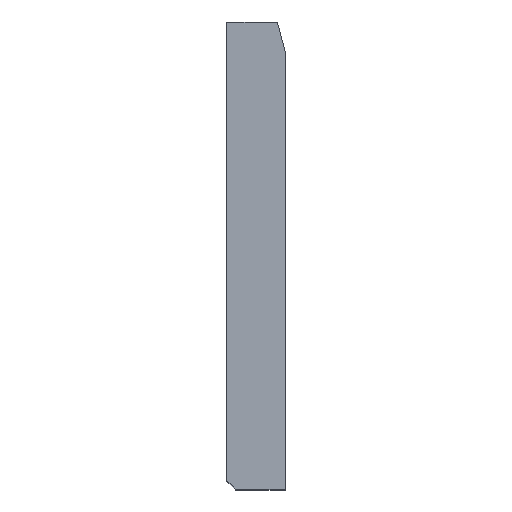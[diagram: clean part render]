
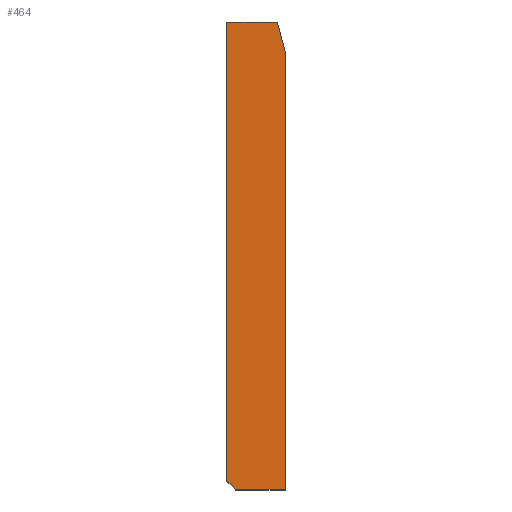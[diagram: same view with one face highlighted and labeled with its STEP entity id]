
A CAD part, top view. The second image highlights one B-rep face of the part: STEP entity #464.
In plain terms, the highlighted planar face has unit normal (0, 0, 1).
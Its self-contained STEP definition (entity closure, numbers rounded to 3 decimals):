
#70=CARTESIAN_POINT('Vertex',(0.,3.,80.)) ;
#73=CARTESIAN_POINT('Line Origine',(0.,81.5,80.)) ;
#77=CARTESIAN_POINT('Vertex',(0.,160.,80.)) ;
#402=CARTESIAN_POINT('Vertex',(3.,0.,80.)) ;
#405=CARTESIAN_POINT('Line Origine',(1.5,1.5,80.)) ;
#417=CARTESIAN_POINT('Axis2P3D Location',(15.,149.342,80.)) ;
#422=CARTESIAN_POINT('Line Origine',(11.5,0.,80.)) ;
#426=CARTESIAN_POINT('Vertex',(20.,0.,80.)) ;
#429=CARTESIAN_POINT('Line Origine',(20.,74.671,80.)) ;
#433=CARTESIAN_POINT('Vertex',(20.,149.342,80.)) ;
#436=CARTESIAN_POINT('Axis2P3D Location',(15.,149.342,80.)) ;
#440=CARTESIAN_POINT('Vertex',(19.83,150.636,80.)) ;
#443=CARTESIAN_POINT('Line Origine',(18.575,155.318,80.)) ;
#447=CARTESIAN_POINT('Vertex',(17.321,160.,80.)) ;
#450=CARTESIAN_POINT('Line Origine',(8.66,160.,80.)) ;
#74=DIRECTION('Vector Direction',(0.,-1.,0.)) ;
#406=DIRECTION('Vector Direction',(0.707,-0.707,0.)) ;
#418=DIRECTION('Axis2P3D Direction',(0.,0.,1.)) ;
#419=DIRECTION('Axis2P3D XDirection',(1.,0.,-0.)) ;
#423=DIRECTION('Vector Direction',(1.,0.,0.)) ;
#430=DIRECTION('Vector Direction',(0.,1.,0.)) ;
#437=DIRECTION('Axis2P3D Direction',(0.,0.,1.)) ;
#444=DIRECTION('Vector Direction',(-0.259,0.966,0.)) ;
#451=DIRECTION('Vector Direction',(-1.,0.,0.)) ;
#420=AXIS2_PLACEMENT_3D('Plane Axis2P3D',#417,#418,#419) ;
#438=AXIS2_PLACEMENT_3D('Circle Axis2P3D',#436,#437,$) ;
#456=ORIENTED_EDGE('',*,*,#79,.T.) ;
#457=ORIENTED_EDGE('',*,*,#409,.T.) ;
#458=ORIENTED_EDGE('',*,*,#428,.T.) ;
#459=ORIENTED_EDGE('',*,*,#435,.T.) ;
#460=ORIENTED_EDGE('',*,*,#442,.T.) ;
#461=ORIENTED_EDGE('',*,*,#449,.T.) ;
#462=ORIENTED_EDGE('',*,*,#454,.T.) ;
#75=VECTOR('Line Direction',#74,1.) ;
#407=VECTOR('Line Direction',#406,1.) ;
#424=VECTOR('Line Direction',#423,1.) ;
#431=VECTOR('Line Direction',#430,1.) ;
#445=VECTOR('Line Direction',#444,1.) ;
#452=VECTOR('Line Direction',#451,1.) ;
#464=ADVANCED_FACE('A915-160X160',(#463),#421,.T.) ;
#439=CIRCLE('generated circle',#438,5.) ;
#79=EDGE_CURVE('',#78,#71,#76,.T.) ;
#409=EDGE_CURVE('',#71,#403,#408,.T.) ;
#428=EDGE_CURVE('',#403,#427,#425,.T.) ;
#435=EDGE_CURVE('',#427,#434,#432,.T.) ;
#442=EDGE_CURVE('',#434,#441,#439,.T.) ;
#449=EDGE_CURVE('',#441,#448,#446,.T.) ;
#454=EDGE_CURVE('',#448,#78,#453,.T.) ;
#455=EDGE_LOOP('',(#456,#457,#458,#459,#460,#461,#462)) ;
#463=FACE_OUTER_BOUND('',#455,.T.) ;
#76=LINE('Line',#73,#75) ;
#408=LINE('Line',#405,#407) ;
#425=LINE('Line',#422,#424) ;
#432=LINE('Line',#429,#431) ;
#446=LINE('Line',#443,#445) ;
#453=LINE('Line',#450,#452) ;
#421=PLANE('Plane',#420) ;
#71=VERTEX_POINT('',#70) ;
#78=VERTEX_POINT('',#77) ;
#403=VERTEX_POINT('',#402) ;
#427=VERTEX_POINT('',#426) ;
#434=VERTEX_POINT('',#433) ;
#441=VERTEX_POINT('',#440) ;
#448=VERTEX_POINT('',#447) ;
